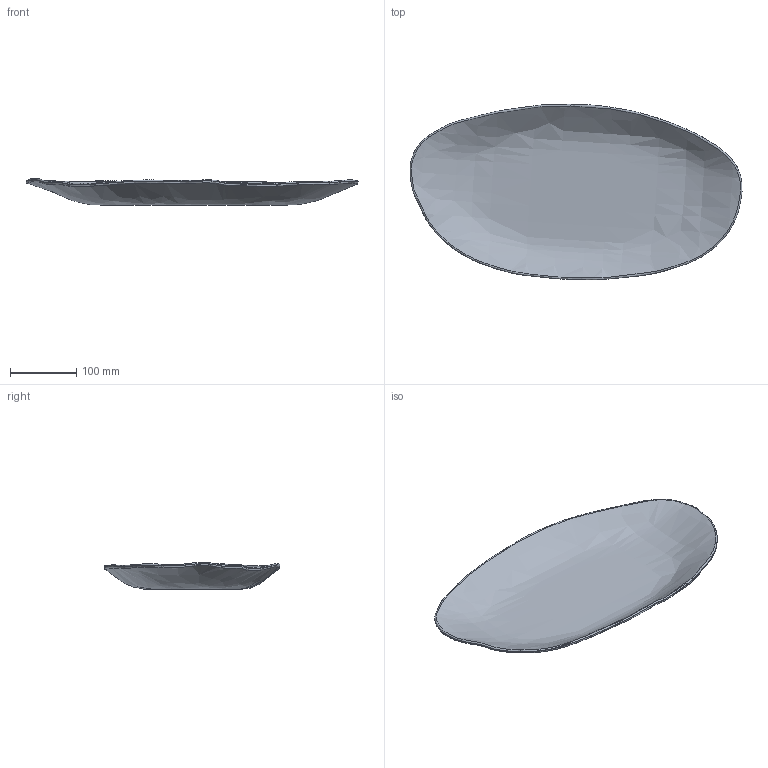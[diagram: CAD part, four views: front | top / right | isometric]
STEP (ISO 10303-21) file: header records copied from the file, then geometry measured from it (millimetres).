
FILE_DESCRIPTION(/* description */ (''),/* implementation_level */ '2;1');
FILE_NAME(/* name */ 'Native Oval Tray Big',/* time_stamp */ '2024-05-22T16:59:16+02:00',/* author */ (''),/* organization */ (''),/* preprocessor_version */ 'ST-DEVELOPER v16.5',/* originating_system */ 'Rhino 7.37',/* authorisation */ '');
FILE_SCHEMA (('CONFIG_CONTROL_DESIGN'));
Length unit declared in the file: millimetre
Products named in the file (1): Document
Bounding box: 499.66 x 264.28 x 40.44 mm (x, y, z)
Volume: 539132.7 mm3; surface area: 233052.9 mm2
Topology: 1 solids, 1 shells, 8 faces, 14 edges, 8 vertices
Faces by surface type: bspline 8
Entity records: 29550 total; most frequent: CARTESIAN_POINT 29280, B_SPLINE_CURVE_WITH_KNOTS 30, ORIENTED_EDGE 28, PCURVE 28, DEFINITIONAL_REPRESENTATION 28, SURFACE_CURVE 14, EDGE_CURVE 14, ADVANCED_FACE 8
